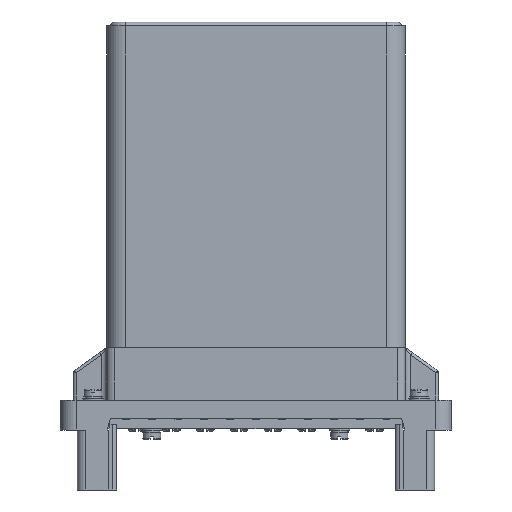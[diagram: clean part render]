
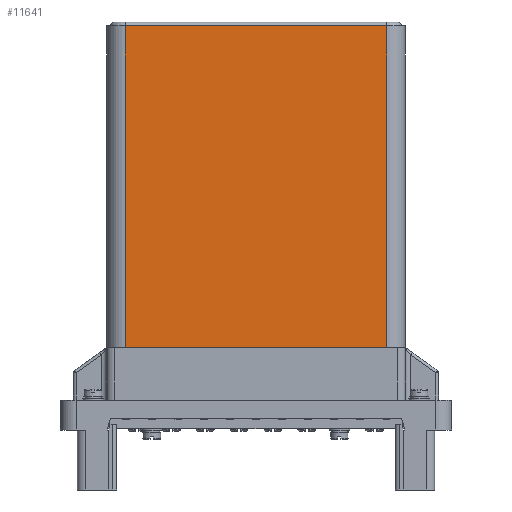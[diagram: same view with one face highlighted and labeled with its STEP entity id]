
A CAD part, left-side view. The second image highlights one B-rep face of the part: STEP entity #11641.
In plain terms, the highlighted planar face has unit normal (-1, 0, 0).
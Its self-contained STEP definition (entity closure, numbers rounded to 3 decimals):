
#11641=ADVANCED_FACE('',(#51066),#51068,.T.);
#51066=FACE_BOUND('',#51067,.T.);
#51067=EDGE_LOOP('',(#82589,#82590,#82591,#82592));
#51068=PLANE('',#51069);
#51069=AXIS2_PLACEMENT_3D('',#51070,#51071,#51072);
#51070=CARTESIAN_POINT('',(-32.15,50.15,31.5));
#51071=DIRECTION('',(-1.,0.,0.));
#51072=DIRECTION('',(0.,-1.,0.));
#82589=ORIENTED_EDGE('',*,*,#100205,.T.);
#82590=ORIENTED_EDGE('',*,*,#101408,.T.);
#82591=ORIENTED_EDGE('',*,*,#101409,.F.);
#82592=ORIENTED_EDGE('',*,*,#101410,.F.);
#100205=EDGE_CURVE('',#113399,#113397,#113400,.T.);
#101408=EDGE_CURVE('',#113397,#115732,#115734,.T.);
#101409=EDGE_CURVE('',#115735,#115732,#115736,.T.);
#101410=EDGE_CURVE('',#113399,#115735,#115737,.T.);
#113397=VERTEX_POINT('',#138533);
#113399=VERTEX_POINT('',#138538);
#113400=LINE('',#138539,#138540);
#115732=VERTEX_POINT('',#143934);
#115734=LINE('',#143939,#143940);
#115735=VERTEX_POINT('',#143942);
#115736=LINE('',#143943,#143944);
#115737=LINE('',#143946,#143947);
#138533=CARTESIAN_POINT('',(-32.15,-50.15,31.5));
#138538=CARTESIAN_POINT('',(-32.15,50.15,31.5));
#138539=CARTESIAN_POINT('',(-32.15,50.15,31.5));
#138540=VECTOR('',#138541,1.);
#138541=DIRECTION('',(0.,-1.,0.));
#143934=CARTESIAN_POINT('',(-32.15,-50.15,155.));
#143939=CARTESIAN_POINT('',(-32.15,-50.15,31.5));
#143940=VECTOR('',#143941,1.);
#143941=DIRECTION('',(0.,0.,1.));
#143942=CARTESIAN_POINT('',(-32.15,50.15,155.));
#143943=CARTESIAN_POINT('',(-32.15,50.15,155.));
#143944=VECTOR('',#143945,1.);
#143945=DIRECTION('',(0.,-1.,0.));
#143946=CARTESIAN_POINT('',(-32.15,50.15,31.5));
#143947=VECTOR('',#143948,1.);
#143948=DIRECTION('',(0.,0.,1.));
